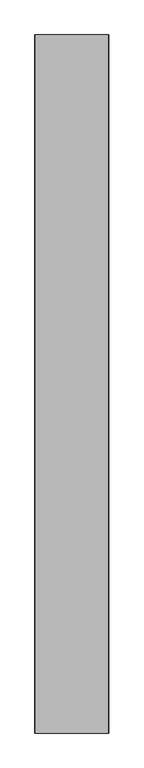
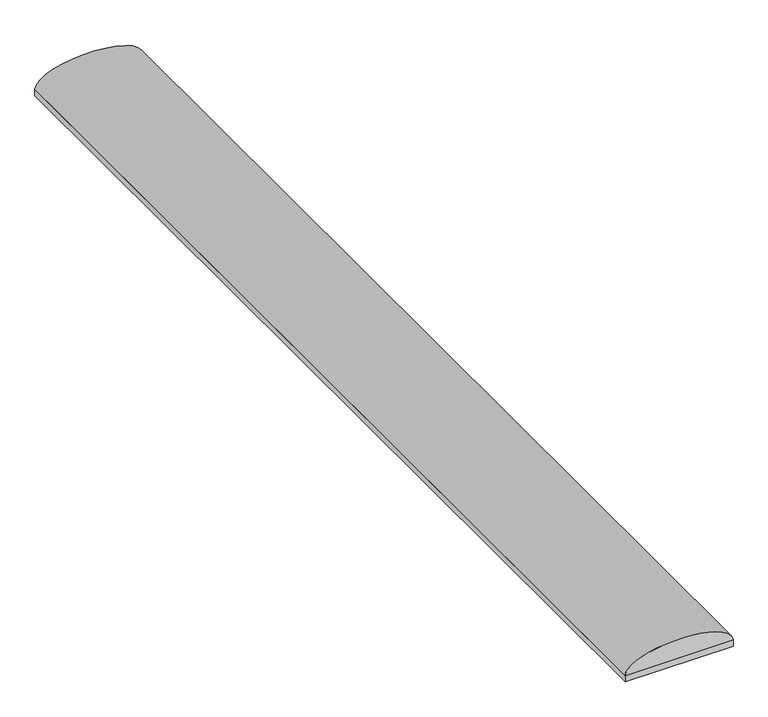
"""IFC4 building model written with IfcOpenShell, lengths in millimetres: proxy geometry, Spinneybeck_ARO Plank 1 : F - 1’-0 1/4” (31.1 cm)."""

from ifc_helpers import new_model, si_unit, point, frame, origin, origin_with_axes, place, context, project, spatial, polyline, ellipse_curve, trimmed, outline, extrude, source, transform, mapped, element, save
from ifc_brep_helpers import plane_surface, extruded_surface, advanced_brep


def specialty_equipment_42482238(model_context):
    return source(origin(), model_context, "Body", "SolidModel", [
        advanced_brep(
        [(155.575, 2946.4, 19.05), (-155.575, 2946.4, 19.05), (155.575, 0.0, 19.05), (-155.575, 0.0, 19.05)],
        [
            (0, 1),
            (1, 0, ellipse_curve(frame((0.0, 2946.4, 19.05), z_axis=(0.0, 1.0, 0.0), x_axis=(-1.0, 0.0, 0.0)), 155.575, 57.15)),
            (2, 3, ellipse_curve(frame((0.0, 0.0, 19.05), z_axis=(0.0, -1.0, 0.0), x_axis=(-1.0, 0.0, 0.0)), 155.575, 57.15)),
            (3, 2),
            (0, 2),
            (3, 1),
        ],
        [
            plane_surface(frame((0.0, 2946.4, 0.0), z_axis=(0.0, 1.0, 0.0), x_axis=(0.0, 0.0, 1.0))),
            plane_surface(frame((0.0, 0.0, 0.0), z_axis=(0.0, -1.0, 0.0), x_axis=(0.0, 0.0, 1.0))),
            plane_surface(frame((155.575, 2946.4, 19.05), z_axis=(0.0, 0.0, -1.0), x_axis=(0.0, -1.0, 0.0))),
            extruded_surface(trimmed(ellipse_curve(frame((0.0, 0.0, 19.05), z_axis=(0.0, 1.0, 0.0), x_axis=(-1.0, 0.0, 0.0)), 155.575, 57.15), [point((-155.575, 0.0, 19.05))], [point((155.575, 0.0, 19.05))], True, "CARTESIAN"), (0.0, 2946.4, 0.0), 2946.4),
        ],
        [
            (0, [[1, 2]]),
            (1, [[3, 4]]),
            (2, [[-1, 5, -4, 6]]),
            (3, [[-2, -6, -3, -5]]),
        ],
    ),
        extrude(outline(polyline([(-155.575, 2946.4), (155.575, 2946.4), (155.575, 0.0), (-155.575, 0.0), (-155.575, 2946.4)])), origin_with_axes(), (0.0, 0.0, 1.0), 19.05),
    ])


if __name__ == "__main__":
    model = new_model("IFC4")
    model_context = context("Model", 3, world=origin())
    ifc_project = project(units=[si_unit("LENGTHUNIT", "METRE", prefix="MILLI")], contexts=[model_context])
    site = spatial("IfcSite", under=ifc_project)
    building = spatial("IfcBuilding", under=site)
    placement = place(None, origin())
    specialty_equipment_shape = specialty_equipment_42482238(model_context)
    element("IfcBuildingElementProxy", 1, Name="Spinneybeck_ARO Plank 1 : F - 1’-0 1/4” (31.1 cm)", ObjectType="Spinneybeck_ARO Plank 1 : F - 1’-0 1/4” (31.1 cm)", at=placement, inside=building, context=model_context, shape_type="MappedRepresentation", body=[
        mapped(specialty_equipment_shape, transform((0.0, 0.0, 0.0), x_axis=(1.0, 0.0, 0.0), y_axis=(0.0, 1.0, 0.0), z_axis=(0.0, 0.0, 1.0))),
    ])
    save(model, "model.ifc")
